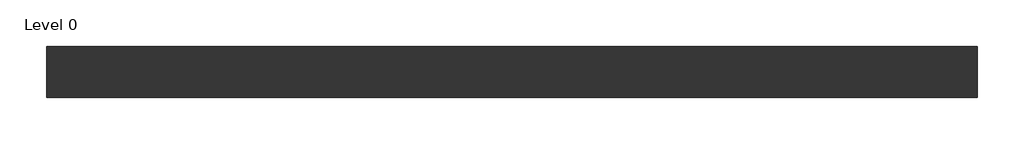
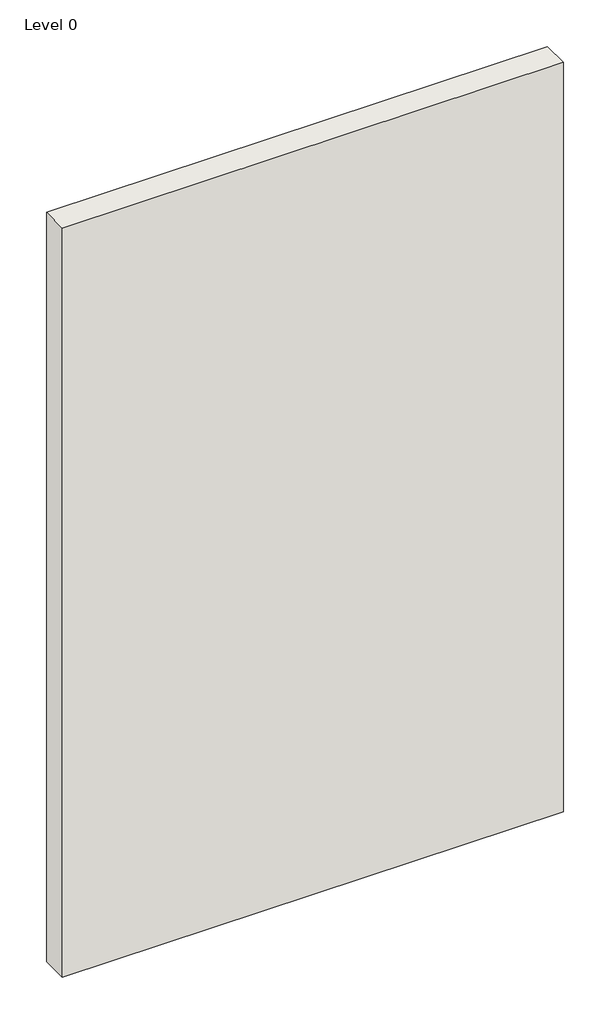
# One storey: 1 wall.
"""IFC4 building model written with IfcOpenShell, lengths in millimetres."""

from ifc_helpers import new_model, si_unit, origin, origin_with_axes, place, context, project, spatial, polyline, outline, extrude, element, save

model = new_model("IFC4")

# Units and contexts
model_context = context("Model", 3, world=origin())
ifc_project = project(units=[si_unit("LENGTHUNIT", "METRE", prefix="MILLI")], contexts=[model_context])

# Site, building, storey
site = spatial("IfcSite", under=ifc_project)
building = spatial("IfcBuilding", under=site)
storey = spatial("IfcBuildingStorey", under=building, Name="Level 0", Elevation=0.0)

# Wall
placement = place(None, origin())
element("IfcWall", 1, ObjectType="A046024 - GypWall Classic", at=placement, inside=storey, context=model_context, shape_type="SweptSolid", body=[
    extrude(outline(polyline([(1155.997948, 470.2669953), (-1944.002052, 470.2669953), (-1944.002052, 640.2669953), (1155.997948, 640.2669953), (1155.997948, 470.2669953)])), origin_with_axes(), (0.0, 0.0, 1.0), 4900.0),
])

save(model, "model.ifc")
